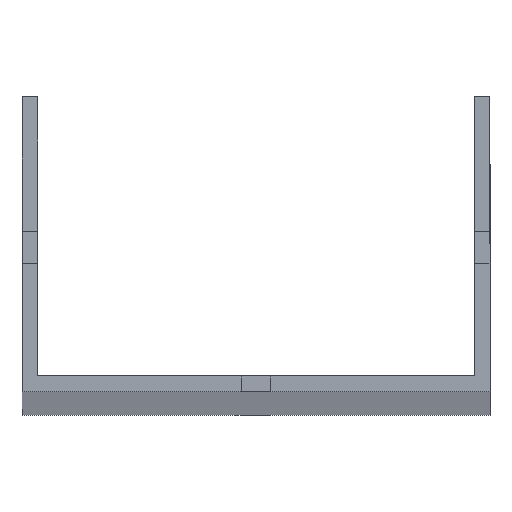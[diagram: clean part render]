
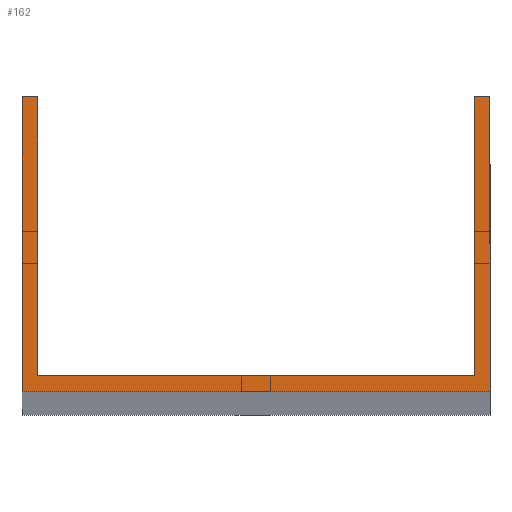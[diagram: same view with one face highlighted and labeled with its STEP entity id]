
A CAD part, top view. The second image highlights one B-rep face of the part: STEP entity #162.
In plain terms, the highlighted planar face has unit normal (0, 0, 1).
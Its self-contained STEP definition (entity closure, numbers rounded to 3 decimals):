
#23 = EDGE_CURVE ( 'NONE', #891, #128, #388, .T. ) ;
#35 = DIRECTION ( 'NONE',  ( 1., 0., 0. ) ) ;
#38 = VECTOR ( 'NONE', #409, 1000. ) ;
#54 = AXIS2_PLACEMENT_3D ( 'NONE', #761, #793, #437 ) ;
#60 = FACE_OUTER_BOUND ( 'NONE', #1109, .T. ) ;
#120 = EDGE_CURVE ( 'NONE', #993, #706, #1135, .T. ) ;
#122 = CARTESIAN_POINT ( 'NONE',  ( 48.5, 65.5, 1500. ) ) ;
#128 = VERTEX_POINT ( 'NONE', #511 ) ;
#132 = ORIENTED_EDGE ( 'NONE', *, *, #768, .T. ) ;
#134 = LINE ( 'NONE', #386, #588 ) ;
#143 = LINE ( 'NONE', #317, #1105 ) ;
#155 = DIRECTION ( 'NONE',  ( 1., 0., 0. ) ) ;
#162 = ADVANCED_FACE ( 'NONE', ( #60 ), #412, .T. ) ;
#192 = DIRECTION ( 'NONE',  ( -1., 0., 0. ) ) ;
#244 = ORIENTED_EDGE ( 'NONE', *, *, #1100, .F. ) ;
#277 = ORIENTED_EDGE ( 'NONE', *, *, #558, .T. ) ;
#295 = CARTESIAN_POINT ( 'NONE',  ( -48.5, 65.5, 1500. ) ) ;
#306 = LINE ( 'NONE', #839, #831 ) ;
#317 = CARTESIAN_POINT ( 'NONE',  ( -52., 0., 1500. ) ) ;
#338 = ORIENTED_EDGE ( 'NONE', *, *, #431, .F. ) ;
#369 = VERTEX_POINT ( 'NONE', #295 ) ;
#386 = CARTESIAN_POINT ( 'NONE',  ( -52., 3.5, 1500. ) ) ;
#388 = LINE ( 'NONE', #392, #479 ) ;
#392 = CARTESIAN_POINT ( 'NONE',  ( 52., 65.5, 1500. ) ) ;
#409 = DIRECTION ( 'NONE',  ( -1., 0., 0. ) ) ;
#412 = PLANE ( 'NONE',  #54 ) ;
#431 = EDGE_CURVE ( 'NONE', #928, #476, #134, .T. ) ;
#437 = DIRECTION ( 'NONE',  ( 1., 0., 0. ) ) ;
#476 = VERTEX_POINT ( 'NONE', #861 ) ;
#479 = VECTOR ( 'NONE', #1085, 1000. ) ;
#494 = DIRECTION ( 'NONE',  ( 0., -1., 0. ) ) ;
#509 = CARTESIAN_POINT ( 'NONE',  ( 52., 0., 1500. ) ) ;
#511 = CARTESIAN_POINT ( 'NONE',  ( 52., 65.5, 1500. ) ) ;
#532 = CARTESIAN_POINT ( 'NONE',  ( -52., 65.5, 1500. ) ) ;
#558 = EDGE_CURVE ( 'NONE', #706, #891, #143, .T. ) ;
#568 = CARTESIAN_POINT ( 'NONE',  ( -52., 0., 1500. ) ) ;
#588 = VECTOR ( 'NONE', #35, 1000. ) ;
#596 = CARTESIAN_POINT ( 'NONE',  ( -52., 65.5, 1500. ) ) ;
#697 = VECTOR ( 'NONE', #192, 1000. ) ;
#706 = VERTEX_POINT ( 'NONE', #568 ) ;
#756 = DIRECTION ( 'NONE',  ( 0., 1., 0. ) ) ;
#761 = CARTESIAN_POINT ( 'NONE',  ( 0., 0., 1500. ) ) ;
#768 = EDGE_CURVE ( 'NONE', #128, #1132, #836, .T. ) ;
#793 = DIRECTION ( 'NONE',  ( 0., 0., 1. ) ) ;
#815 = ORIENTED_EDGE ( 'NONE', *, *, #1123, .F. ) ;
#825 = ORIENTED_EDGE ( 'NONE', *, *, #967, .T. ) ;
#831 = VECTOR ( 'NONE', #494, 1000. ) ;
#836 = LINE ( 'NONE', #1107, #38 ) ;
#839 = CARTESIAN_POINT ( 'NONE',  ( -48.5, 65.5, 1500. ) ) ;
#844 = CARTESIAN_POINT ( 'NONE',  ( 48.5, 65.5, 1500. ) ) ;
#861 = CARTESIAN_POINT ( 'NONE',  ( 48.5, 3.5, 1500. ) ) ;
#862 = DIRECTION ( 'NONE',  ( 0., -1., 0. ) ) ;
#891 = VERTEX_POINT ( 'NONE', #509 ) ;
#903 = ORIENTED_EDGE ( 'NONE', *, *, #23, .T. ) ;
#928 = VERTEX_POINT ( 'NONE', #1133 ) ;
#929 = LINE ( 'NONE', #122, #1088 ) ;
#967 = EDGE_CURVE ( 'NONE', #369, #993, #1068, .T. ) ;
#977 = CARTESIAN_POINT ( 'NONE',  ( -52., 65.5, 1500. ) ) ;
#993 = VERTEX_POINT ( 'NONE', #977 ) ;
#1064 = VECTOR ( 'NONE', #862, 1000. ) ;
#1068 = LINE ( 'NONE', #532, #697 ) ;
#1085 = DIRECTION ( 'NONE',  ( 0., 1., 0. ) ) ;
#1088 = VECTOR ( 'NONE', #756, 1000. ) ;
#1100 = EDGE_CURVE ( 'NONE', #369, #928, #306, .T. ) ;
#1105 = VECTOR ( 'NONE', #155, 1000. ) ;
#1107 = CARTESIAN_POINT ( 'NONE',  ( -52., 65.5, 1500. ) ) ;
#1109 = EDGE_LOOP ( 'NONE', ( #244, #825, #1112, #277, #903, #132, #815, #338 ) ) ;
#1112 = ORIENTED_EDGE ( 'NONE', *, *, #120, .T. ) ;
#1123 = EDGE_CURVE ( 'NONE', #476, #1132, #929, .T. ) ;
#1132 = VERTEX_POINT ( 'NONE', #844 ) ;
#1133 = CARTESIAN_POINT ( 'NONE',  ( -48.5, 3.5, 1500. ) ) ;
#1135 = LINE ( 'NONE', #596, #1064 ) ;
